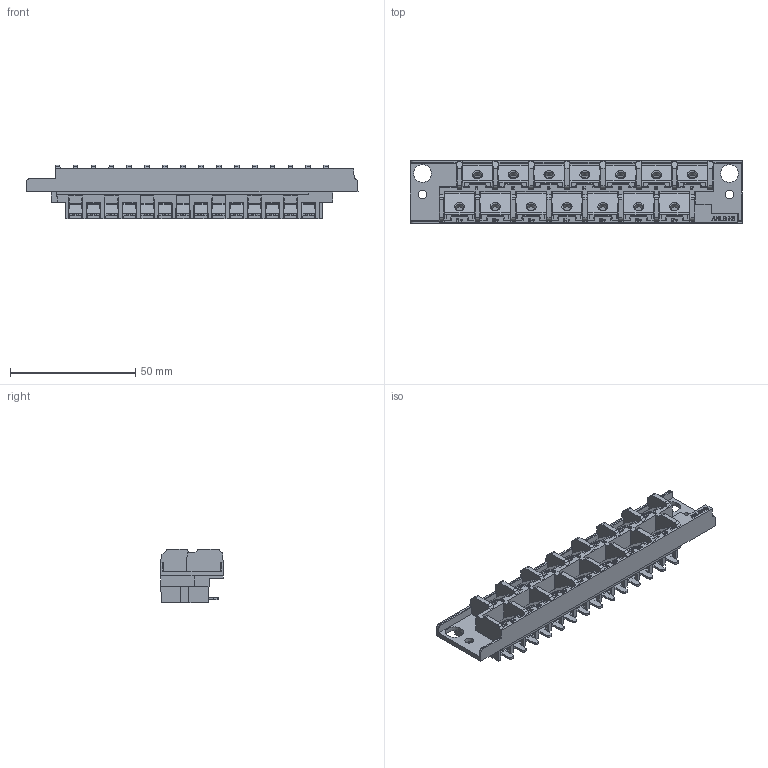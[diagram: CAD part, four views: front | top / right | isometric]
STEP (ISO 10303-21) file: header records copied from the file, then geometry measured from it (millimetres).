
FILE_DESCRIPTION(/* description */ (''),/* implementation_level */ '2;1');
FILE_NAME(/* name */ 'C:\Users\jondi\Desktop\FLEX 3D STP\X6.stp',/* time_stamp */ '2021-03-10T12:39:49-06:00',/* author */ ('jondi'),/* organization */ (''),/* preprocessor_version */ 'ST-DEVELOPER v17.2',/* originating_system */ 'Autodesk Inventor 2019',/* authorisation */ '');
FILE_SCHEMA (('AUTOMOTIVE_DESIGN { 1 0 10303 214 3 1 1 }'));
Length unit declared in the file: inch
Products named in the file (7): X6; 9579230120; 9579230001; CT Connector Housing - Dual Row; Basler CT Metal; Basler CT Metal4; 9579230010
Assembly tree (18 placements, depth 4):
  X6
    9579230120
      9579230001
        CT Connector Housing - Dual Row
      Basler CT Metal  x7
      Basler CT Metal4  x7
    9579230010
Bounding box: 132.55 x 24.98 x 21.46 mm (x, y, z)
Volume: 20012.8 mm3; surface area: 32500 mm2
Topology: 57 solids, 57 shells, 1930 faces, 5171 edges, 3335 vertices
Faces by surface type: plane 1468, cylinder 269, bspline 133, cone 32, torus 28
Full cylindrical faces by diameter (mm): 0.762 x7, 3.302 x14, 4.369 x14
Entity records: 40201 total; most frequent: CARTESIAN_POINT 8667, ORIENTED_EDGE 6838, DIRECTION 5796, EDGE_CURVE 3419, LINE 2824, VECTOR 2824, VERTEX_POINT 2219, AXIS2_PLACEMENT_3D 1486
